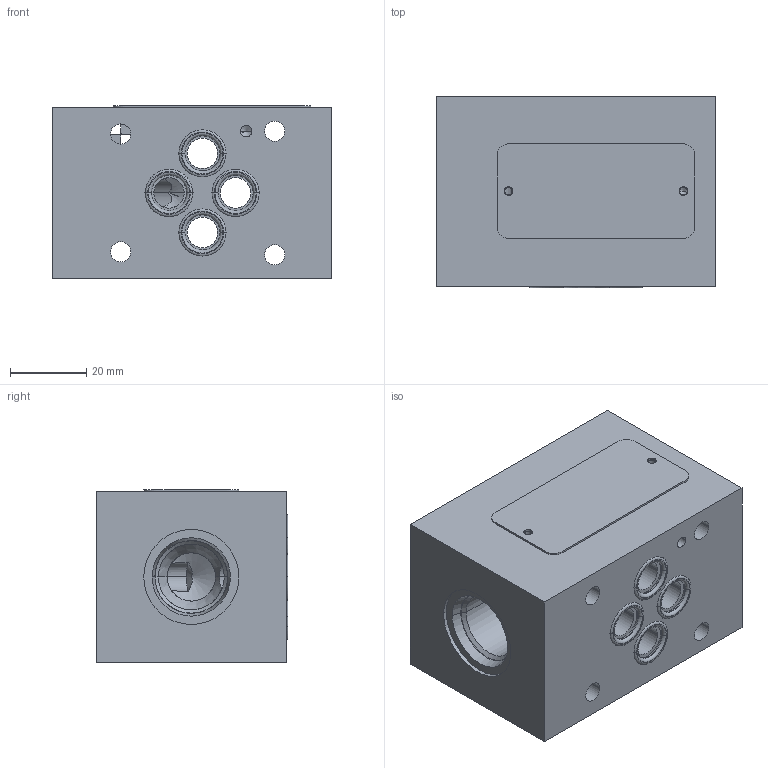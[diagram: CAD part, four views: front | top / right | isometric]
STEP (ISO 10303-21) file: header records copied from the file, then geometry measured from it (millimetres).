
FILE_DESCRIPTION((''),'2;1');
FILE_NAME('28063500_ASM','2023-10-12T',('l.soukupova'),(''),'PRO/ENGINEER BY PARAMETRIC TECHNOLOGY CORPORATION, 2015440','PRO/ENGINEER BY PARAMETRIC TECHNOLOGY CORPORATION, 2015440','');
FILE_SCHEMA(('AUTOMOTIVE_DESIGN { 1 0 10303 214 1 1 1 1 }'));
Length unit declared in the file: millimetre
Products named in the file (4): 27883602; ORAR00012_201524; RD_LABEL_25X52_159703; 28063500_ASM
Assembly tree (6 placements, depth 2):
  28063500_ASM
    27883602
    ORAR00012_201524  x4
    RD_LABEL_25X52_159703
Bounding box: 73.5 x 50.38 x 45.5 mm (x, y, z)
Volume: 144866.8 mm3; surface area: 31973.1 mm2
Topology: 6 solids, 9 shells, 145 faces, 455 edges, 392 vertices
Faces by surface type: cylinder 68, torus 32, plane 28, cone 17
Entity records: 6519 total; most frequent: CARTESIAN_POINT 1193, DIRECTION 775, ORIENTED_EDGE 486, PRESENTATION_STYLE_ASSIGNMENT 456, STYLED_ITEM 407, CURVE_STYLE 402, AXIS2_PLACEMENT_3D 296, EDGE_CURVE 249
